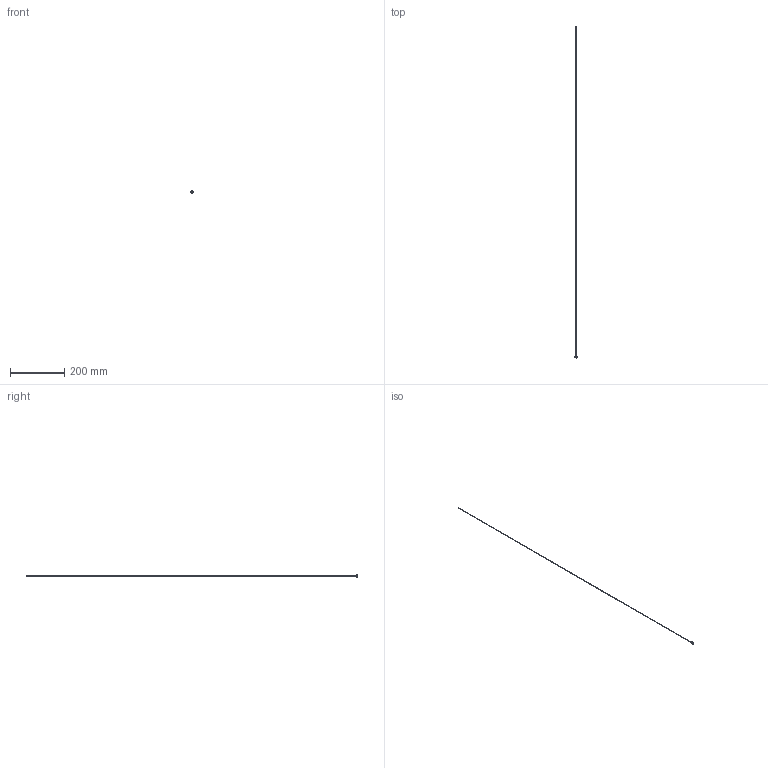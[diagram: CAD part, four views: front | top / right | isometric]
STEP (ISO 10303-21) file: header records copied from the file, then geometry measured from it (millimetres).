
FILE_DESCRIPTION(/* description */ (''),/* implementation_level */ '2;1');
FILE_NAME(/* name */ 'C:/Users/drich/Desktop/PT16-072-48 v1.step',/* time_stamp */ '2019-12-27T15:14:09-06:00',/* author */ (''),/* organization */ (''),/* preprocessor_version */ 'ST-DEVELOPER v18',/* originating_system */ 'Autodesk Translation Framework v8.12.0.6',/* authorisation */ '');
FILE_SCHEMA (('AUTOMOTIVE_DESIGN { 1 0 10303 214 3 1 1 }'));
Length unit declared in the file: inch
Products named in the file (1): PT16-072-48
Bounding box: 7.62 x 1219.2 x 7.62 mm (x, y, z)
Volume: 1210.7 mm3; surface area: 13068.6 mm2
Topology: 1 solids, 1 shells, 19 faces, 48 edges, 34 vertices
Faces by surface type: plane 11, cylinder 4, torus 2, cone 2
Full cylindrical faces by diameter (mm): 1.524 x1, 1.829 x1, 4.724 x1, 7.616 x1
Entity records: 633 total; most frequent: DIRECTION 112, CARTESIAN_POINT 102, ORIENTED_EDGE 96, EDGE_CURVE 48, AXIS2_PLACEMENT_3D 44, VERTEX_POINT 34, CIRCLE 24, EDGE_LOOP 24
